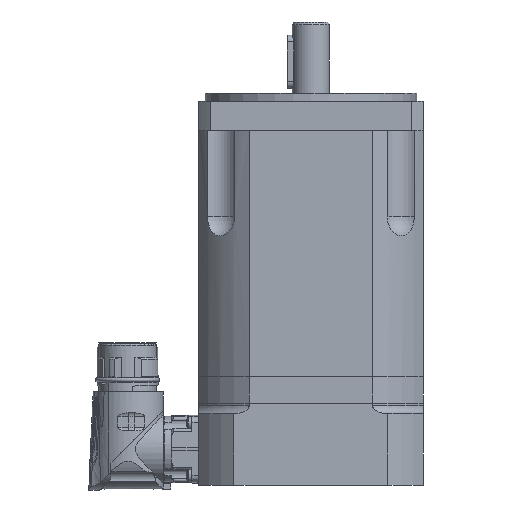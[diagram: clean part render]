
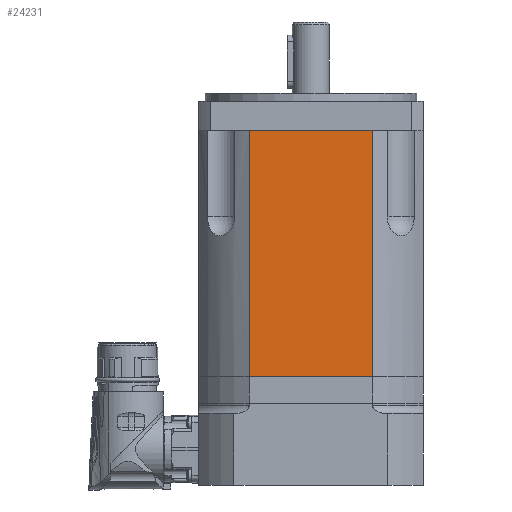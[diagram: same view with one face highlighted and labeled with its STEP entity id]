
A CAD part, left-side view. The second image highlights one B-rep face of the part: STEP entity #24231.
In plain terms, the highlighted planar face has unit normal (-1, 0, 0).
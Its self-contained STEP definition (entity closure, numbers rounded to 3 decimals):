
#4933=FACE_OUTER_BOUND('',#6743,.T.);
#6743=EDGE_LOOP('',(#21421,#21422,#21423,#21424));
#8021=LINE('',#48864,#9108);
#8032=LINE('',#48984,#9119);
#8039=LINE('',#49028,#9126);
#8041=LINE('',#49033,#9128);
#9108=VECTOR('',#31763,46.733);
#9119=VECTOR('',#31818,93.);
#9126=VECTOR('',#31841,93.);
#9128=VECTOR('',#31847,46.733);
#12330=VERTEX_POINT('',#48861);
#12331=VERTEX_POINT('',#48863);
#12352=VERTEX_POINT('',#48982);
#12359=VERTEX_POINT('',#49027);
#15429=EDGE_CURVE('',#12331,#12330,#8021,.T.);
#15458=EDGE_CURVE('',#12330,#12352,#8032,.T.);
#15469=EDGE_CURVE('',#12359,#12331,#8039,.T.);
#15472=EDGE_CURVE('',#12359,#12352,#8041,.T.);
#21421=ORIENTED_EDGE('',*,*,#15469,.T.);
#21422=ORIENTED_EDGE('',*,*,#15429,.T.);
#21423=ORIENTED_EDGE('',*,*,#15458,.T.);
#21424=ORIENTED_EDGE('',*,*,#15472,.F.);
#22922=PLANE('',#26564);
#24231=ADVANCED_FACE('',(#4933),#22922,.T.);
#26564=AXIS2_PLACEMENT_3D('',#49077,#31907,#31908);
#31763=DIRECTION('',(0.,1.,0.));
#31818=DIRECTION('',(0.,0.,-1.));
#31841=DIRECTION('',(0.,0.,1.));
#31847=DIRECTION('',(0.,1.,0.));
#31907=DIRECTION('center_axis',(-1.,0.,0.));
#31908=DIRECTION('ref_axis',(0.,1.,0.));
#48861=CARTESIAN_POINT('',(-42.5,23.367,-11.));
#48863=CARTESIAN_POINT('',(-42.5,-23.367,-11.));
#48864=CARTESIAN_POINT('',(-42.5,-42.5,-11.));
#48982=CARTESIAN_POINT('',(-42.5,23.367,-104.));
#48984=CARTESIAN_POINT('',(-42.5,23.367,-11.));
#49027=CARTESIAN_POINT('',(-42.5,-23.367,-104.));
#49028=CARTESIAN_POINT('',(-42.5,-23.367,-11.));
#49033=CARTESIAN_POINT('',(-42.5,-42.5,-104.));
#49077=CARTESIAN_POINT('Origin',(-42.5,-42.5,-11.));
